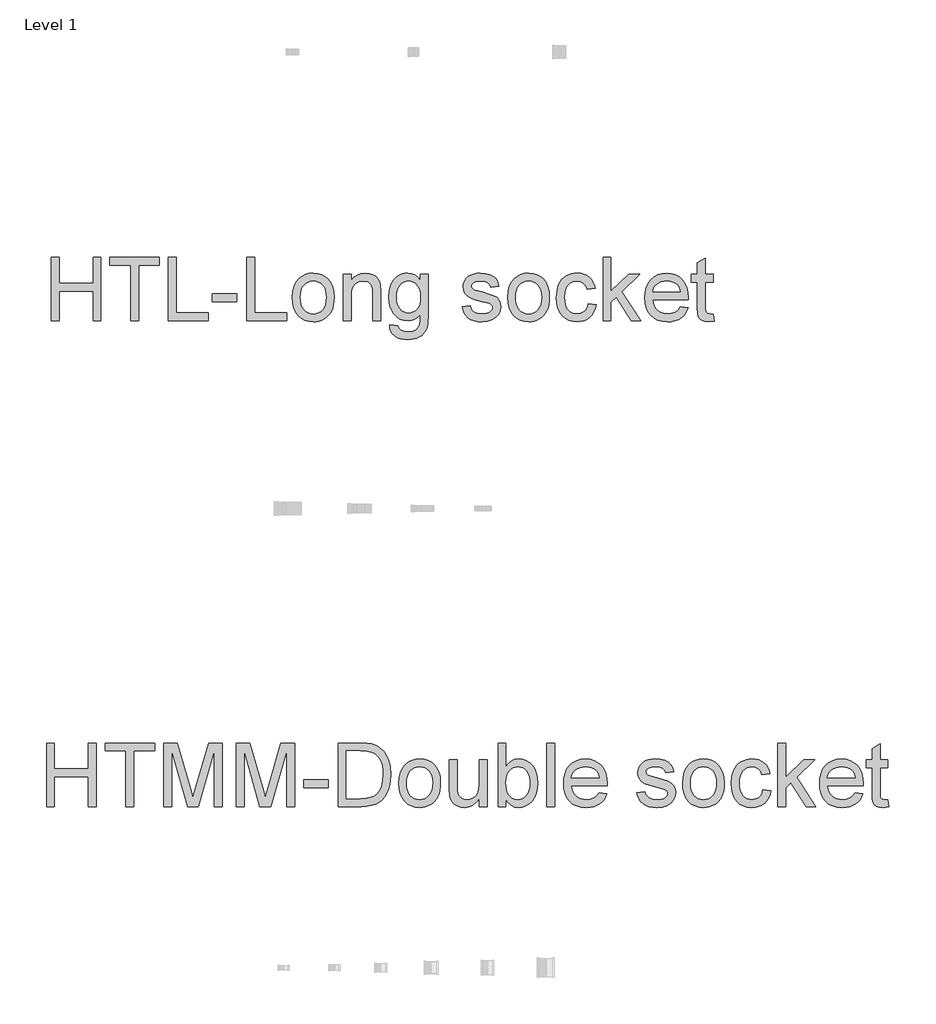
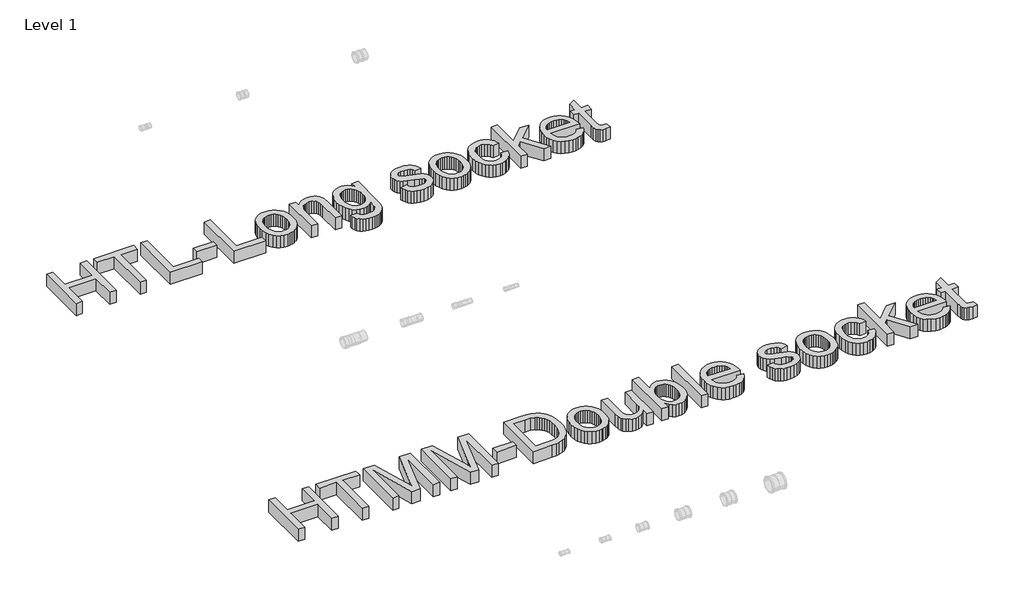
# One storey, part 21 of 29: 2 proxies.
"""IFC4 building model written with IfcOpenShell, lengths in millimetres."""

from ifc_helpers import new_model, si_unit, origin, origin_with_axes, place, context, project, spatial, polyline, outline, extrude, element, save

model = new_model("IFC4")

# Units and contexts
model_context = context("Model", 3, world=origin())
ifc_project = project(units=[si_unit("LENGTHUNIT", "METRE", prefix="MILLI")], contexts=[model_context])

# Site, building, storey
site = spatial("IfcSite", under=ifc_project)
building = spatial("IfcBuilding", under=site)
storey = spatial("IfcBuildingStorey", under=building, Name="Level 1", Elevation=0.0)

# Proxies
placement = place(None, origin())
element("IfcBuildingElementProxy", 1, Name="600mm Arial", ObjectType="600mm Arial", at=placement, inside=storey, context=model_context, shape_type="SweptSolid", body=[
    extrude(outline(polyline([(14453.4588096, 12253.86348), (14453.4588096, 12856.6013409), (14528.8010422, 12856.6013409), (14528.8010422, 12611.7390849), (14849.0055308, 12611.7390849), (14849.0055308, 12856.6013409), (14924.3477635, 12856.6013409), (14924.3477635, 12253.86348), (14849.0055308, 12253.86348), (14849.0055308, 12536.3968523), (14528.8010422, 12536.3968523), (14528.8010422, 12253.86348), (14453.4588096, 12253.86348)])), origin_with_axes(), (0.0, 0.0, 1.0), 150.0),
    extrude(outline(polyline([(15206.8811357, 12253.86348), (15206.8811357, 12781.2591083), (15009.1077751, 12781.2591083), (15009.1077751, 12856.6013409), (15479.996729, 12856.6013409), (15479.996729, 12781.2591083), (15282.2233684, 12781.2591083), (15282.2233684, 12253.86348), (15206.8811357, 12253.86348)])), origin_with_axes(), (0.0, 0.0, 1.0), 150.0),
    extrude(outline(polyline([(15564.7567407, 12253.86348), (15564.7567407, 12856.6013409), (15640.0989733, 12856.6013409), (15640.0989733, 12329.2057126), (15941.4679037, 12329.2057126), (15941.4679037, 12253.86348), (15564.7567407, 12253.86348)])), origin_with_axes(), (0.0, 0.0, 1.0), 150.0),
    extrude(outline(polyline([(15979.13902, 12432.8012824), (15979.13902, 12508.143515), (16214.5834969, 12508.143515), (16214.5834969, 12432.8012824), (15979.13902, 12432.8012824)])), origin_with_axes(), (0.0, 0.0, 1.0), 150.0),
    extrude(outline(polyline([(16308.7612877, 12253.86348), (16308.7612877, 12856.6013409), (16384.1035203, 12856.6013409), (16384.1035203, 12329.2057126), (16685.4724508, 12329.2057126), (16685.4724508, 12253.86348), (16308.7612877, 12253.86348)])), origin_with_axes(), (0.0, 0.0, 1.0), 150.0),
    extrude(outline(polyline([(16741.9791252, 12475.1812883), (16746.0534183, 12532.5065002), (16758.2762976, 12581.9038551), (16778.6477631, 12623.373353), (16807.1678148, 12656.9149939), (16835.8810045, 12678.3533172), (16867.5740384, 12693.6664052), (16902.2469164, 12702.854258), (16939.8996386, 12705.9168756), (16981.4657056, 12702.1874719), (17019.0494499, 12690.9992607), (17052.6508716, 12672.3522421), (17082.2699708, 12646.246416), (17106.4444164, 12613.5646993), (17123.7118775, 12575.1900087), (17134.0723542, 12531.1223442), (17137.5258464, 12481.3617058), (17135.9991362, 12441.0326421), (17131.4190053, 12405.246921), (17123.7854539, 12374.0045425), (17113.098482, 12347.3055067), (17099.4914467, 12324.2439042), (17083.0977053, 12303.9138254), (17063.9172577, 12286.3152705), (17041.9501041, 12271.4482393), (17018.05157, 12259.6346288), (16993.076981, 12251.1963355), (16967.0263372, 12246.1333595), (16939.8996386, 12244.4457009), (16897.7265664, 12248.161309), (16859.7933342, 12259.3081335), (16826.0999419, 12277.8861743), (16796.6463897, 12303.8954313), (16772.7294615, 12336.8944463), (16755.6459413, 12376.4417608), (16745.3958293, 12422.5373748), (16741.9791252, 12475.1812883)]), holes=[polyline([(16817.3213578, 12475.3284411), (16819.5010587, 12438.7839634), (16826.0401611, 12407.1415133), (16836.9386652, 12380.4010907), (16852.196571, 12358.5626958), (16870.7562176, 12341.5987373), (16891.5599445, 12329.4816241), (16914.6077515, 12322.2113561), (16939.8996386, 12319.7879335), (16965.0627671, 12322.2251517), (16988.0186036, 12329.5368064), (17008.7671481, 12341.7228975), (17027.3084007, 12358.783425), (17042.5663064, 12380.8379506), (17053.4648105, 12408.0060359), (17060.003913, 12440.287681), (17062.1836138, 12477.6828858), (17059.9901174, 12513.0685352), (17053.4096282, 12543.8832509), (17042.4421463, 12570.1270327), (17027.0876715, 12591.7998807), (17008.4774411, 12608.7638392), (16987.7426921, 12620.8809525), (16964.8834246, 12628.1512204), (16939.8996386, 12630.574643), (16914.6077515, 12628.1604174), (16891.5599445, 12620.9177407), (16870.7562176, 12608.8466127), (16852.196571, 12591.9470335), (16836.9386652, 12570.1730179), (16826.0401611, 12543.4785807), (16819.5010587, 12511.8637217), (16817.3213578, 12475.3284411)])]), origin_with_axes(), (0.0, 0.0, 1.0), 150.0),
    extrude(outline(polyline([(17222.2858581, 12253.86348), (17222.2858581, 12696.4990966), (17297.6280907, 12696.4990966), (17297.6280907, 12634.6949214), (17323.8028947, 12665.8545264), (17355.2384112, 12688.1113871), (17391.9346402, 12701.4655035), (17433.8915818, 12705.9168756), (17471.0292692, 12702.3300262), (17505.0399596, 12691.5694778), (17533.4036614, 12674.9779998), (17553.600383, 12653.8983615), (17567.3039873, 12628.3857452), (17576.1883375, 12598.495333), (17580.161463, 12525.654698), (17580.161463, 12253.86348), (17504.8192304, 12253.86348), (17504.8192304, 12515.5011549), (17502.6487267, 12554.4598582), (17496.1372153, 12582.1613725), (17484.1258682, 12602.0086061), (17465.4558569, 12617.4044676), (17441.5251332, 12627.2820992), (17413.7316484, 12630.574643), (17390.8539868, 12628.726036), (17369.6042031, 12623.1802149), (17349.9822972, 12613.9371798), (17331.9882691, 12600.9969306), (17316.9556911, 12582.8879394), (17306.2181353, 12558.1386782), (17299.7756019, 12526.7491469), (17297.6280907, 12488.7193457), (17297.6280907, 12253.86348), (17222.2858581, 12253.86348)])), origin_with_axes(), (0.0, 0.0, 1.0), 150.0),
    extrude(outline(polyline([(17664.9214747, 12216.1923637), (17740.2637073, 12206.7745846), (17748.5778404, 12183.2301369), (17764.6910718, 12167.0433291), (17796.3657116, 12154.4617649), (17837.8260125, 12150.2679101), (17882.0454283, 12155.0135879), (17899.9060991, 12160.945685), (17914.9340786, 12169.2506211), (17937.7427623, 12192.0593048), (17951.7222782, 12222.519934), (17955.8057683, 12254.9303378), (17956.8726261, 12310.3701544), (17931.8014681, 12285.6484843), (17903.8240424, 12267.9901486), (17872.9403489, 12257.3951471), (17839.1503876, 12253.86348), (17797.8418381, 12257.9745613), (17761.4721044, 12270.3078052), (17730.0411864, 12290.8632116), (17703.5490842, 12319.6407807), (17682.5292267, 12354.166506), (17667.5150428, 12391.966381), (17658.5065324, 12433.0404057), (17655.5036956, 12477.3885802), (17660.8931669, 12538.2178681), (17677.0615806, 12594.1543255), (17689.0453366, 12619.3772348), (17703.4387196, 12641.5559206), (17720.2417297, 12660.6903829), (17739.4543669, 12676.7806216), (17760.76853, 12689.5277328), (17783.8761179, 12698.6328121), (17808.7771304, 12704.0958598), (17835.4715677, 12705.9168756), (17870.7054658, 12701.7965973), (17902.6836082, 12689.4357623), (17931.405995, 12668.8343705), (17956.8726261, 12639.9924221), (17956.8726261, 12696.4990966), (18032.2148587, 12696.4990966), (18032.2148587, 12314.34328), (18027.0645108, 12226.1067834), (18020.6265759, 12193.2871109), (18011.613467, 12167.9998223), (17999.8090535, 12147.6053642), (17984.9972046, 12129.4641833), (17967.1779205, 12113.5762796), (17946.351201, 12099.9416532), (17922.7285784, 12088.9971638), (17896.5215848, 12081.1796714), (17867.7302201, 12076.489176), (17836.3544845, 12074.9256775), (17799.4421248, 12077.128371), (17766.2545703, 12083.7364513), (17736.791821, 12094.7499185), (17711.0538769, 12110.1687727), (17690.2639457, 12130.0114078), (17675.6452349, 12154.296218), (17667.1977446, 12183.0232033), (17664.9214747, 12216.1923637)]), holes=[polyline([(17730.8459283, 12482.5389282), (17732.8554837, 12445.2862776), (17738.8841499, 12413.4322954), (17748.9319268, 12386.9769814), (17762.9988146, 12365.9203357), (17780.1007289, 12349.8576881), (17799.2535853, 12338.3843684), (17820.4573838, 12331.5003765), (17843.7121244, 12329.2057126), (17866.7369388, 12331.4865809), (17887.8395697, 12338.3291861), (17907.0200172, 12349.7335279), (17924.2782813, 12365.6996065), (17938.5383072, 12386.5493186), (17948.7240399, 12412.6045609), (17954.8354795, 12443.8653334), (17956.8726261, 12480.3316362), (17954.7756987, 12515.2758272), (17948.4849166, 12545.6490844), (17938.0002797, 12571.4514079), (17923.3217881, 12592.6827975), (17905.6910435, 12609.2604799), (17886.3496476, 12621.1016817), (17865.2976004, 12628.2064027), (17842.534902, 12630.574643), (17820.1538811, 12628.2431909), (17799.5111027, 12621.2488344), (17780.6065666, 12609.5915737), (17763.440273, 12593.2714087), (17749.1802472, 12572.3619158), (17738.9945145, 12546.9366714), (17732.8830748, 12516.9956755), (17730.8459283, 12482.5389282)])]), origin_with_axes(), (0.0, 0.0, 1.0), 150.0),
    extrude(outline(polyline([(18352.4193473, 12385.712387), (18427.7615799, 12395.1301661), (18432.3141196, 12377.9500769), (18439.6441684, 12362.9037033), (18449.7517262, 12349.9910453), (18462.6367931, 12339.2121028), (18478.3361572, 12330.7140288), (18496.8866068, 12324.6439758), (18542.5407624, 12319.7879335), (18587.643095, 12324.2393056), (18605.1726721, 12329.8035208), (18619.354523, 12337.5934221), (18638.1165048, 12356.944015), (18642.8070002, 12367.7781398), (18644.3704987, 12379.3848167), (18642.7978032, 12389.5567539), (18638.0797166, 12398.5882569), (18619.2073702, 12413.2299603), (18590.9908212, 12422.7948922), (18541.6578456, 12434.7142688), (18472.9007007, 12454.5982906), (18428.2030383, 12471.5760447), (18399.4898486, 12490.0989032), (18378.6861218, 12514.6182381), (18366.0493752, 12543.5705512), (18361.8371264, 12575.3923438), (18365.2216407, 12604.5837801), (18375.3751838, 12631.5311362), (18391.3780506, 12655.1675544), (18412.3105361, 12674.4261769), (18433.114263, 12686.5478886), (18460.2087719, 12696.7198258), (18491.5339238, 12703.6176132), (18525.0295794, 12705.9168756), (18574.0682494, 12702.2196616), (18616.7057726, 12691.1280194), (18650.9923746, 12673.7272011), (18674.9782807, 12651.1024584), (18690.8707829, 12621.5799282), (18700.8771731, 12583.4857476), (18625.5349405, 12574.0679686), (18616.025191, 12597.7779632), (18597.2080269, 12615.638634), (18568.8995074, 12626.8406408), (18530.9156914, 12630.574643), (18487.6527687, 12627.0061877), (18458.8108203, 12616.3008216), (18442.5872243, 12600.8497778), (18437.179359, 12583.0442893), (18439.4234392, 12571.4560064), (18446.1556797, 12561.1185223), (18457.6703861, 12551.8846843), (18474.2618641, 12544.4902562), (18539.1562481, 12528.4506012), (18649.7415758, 12492.9867768), (18678.9514062, 12476.0274169), (18701.0979023, 12452.814063), (18715.0590241, 12423.2731387), (18719.7127313, 12387.3310678), (18714.2496837, 12350.1749863), (18697.8605408, 12315.2261968), (18671.170702, 12285.2254201), (18634.8055668, 12262.913377), (18590.8804566, 12249.0626199), (18541.5106928, 12244.4457009), (18500.9608999, 12246.671387), (18465.5430608, 12253.3484452), (18435.2571756, 12264.4768755), (18410.1032442, 12280.056678), (18389.5570347, 12300.0142763), (18373.0943154, 12324.2760938), (18360.7150863, 12352.8421308), (18352.4193473, 12385.712387)])), origin_with_axes(), (0.0, 0.0, 1.0), 150.0),
    extrude(outline(polyline([(18785.6371848, 12475.1812883), (18789.7114779, 12532.5065002), (18801.9343572, 12581.9038551), (18822.3058227, 12623.373353), (18850.8258744, 12656.9149939), (18879.5390641, 12678.3533172), (18911.232098, 12693.6664052), (18945.904976, 12702.854258), (18983.5576982, 12705.9168756), (19025.1237652, 12702.1874719), (19062.7075095, 12690.9992607), (19096.3089312, 12672.3522421), (19125.9280304, 12646.246416), (19150.102476, 12613.5646993), (19167.3699371, 12575.1900087), (19177.7304138, 12531.1223442), (19181.183906, 12481.3617058), (19179.6571958, 12441.0326421), (19175.0770649, 12405.246921), (19167.4435135, 12374.0045425), (19156.7565416, 12347.3055067), (19143.1495063, 12324.2439042), (19126.7557649, 12303.9138254), (19107.5753173, 12286.3152705), (19085.6081637, 12271.4482393), (19061.7096296, 12259.6346288), (19036.7350406, 12251.1963355), (19010.6843969, 12246.1333595), (18983.5576982, 12244.4457009), (18941.384626, 12248.161309), (18903.4513938, 12259.3081335), (18869.7580016, 12277.8861743), (18840.3044493, 12303.8954313), (18816.3875211, 12336.8944463), (18799.304001, 12376.4417608), (18789.0538889, 12422.5373748), (18785.6371848, 12475.1812883)]), holes=[polyline([(18860.9794174, 12475.3284411), (18863.1591183, 12438.7839634), (18869.6982207, 12407.1415133), (18880.5967248, 12380.4010907), (18895.8546306, 12358.5626958), (18914.4142772, 12341.5987373), (18935.2180041, 12329.4816241), (18958.2658111, 12322.2113561), (18983.5576982, 12319.7879335), (19008.7208267, 12322.2251517), (19031.6766632, 12329.5368064), (19052.4252077, 12341.7228975), (19070.9664603, 12358.783425), (19086.224366, 12380.8379506), (19097.1228701, 12408.0060359), (19103.6619726, 12440.287681), (19105.8416734, 12477.6828858), (19103.648177, 12513.0685352), (19097.0676878, 12543.8832509), (19086.1002059, 12570.1270327), (19070.7457311, 12591.7998807), (19052.1355007, 12608.7638392), (19031.4007517, 12620.8809525), (19008.5414842, 12628.1512204), (18983.5576982, 12630.574643), (18958.2658111, 12628.1604174), (18935.2180041, 12620.9177407), (18914.4142772, 12608.8466127), (18895.8546306, 12591.9470335), (18880.5967248, 12570.1730179), (18869.6982207, 12543.4785807), (18863.1591183, 12511.8637217), (18860.9794174, 12475.3284411)])]), origin_with_axes(), (0.0, 0.0, 1.0), 150.0),
    extrude(outline(polyline([(19548.47729, 12413.9657243), (19623.8195226, 12404.5479452), (19615.6249512, 12368.9967489), (19602.8134607, 12337.5382398), (19585.3850512, 12310.1724179), (19563.3397226, 12286.8992831), (19537.6063771, 12268.3258409), (19509.1139165, 12255.0590965), (19477.8623411, 12247.0990498), (19443.8516506, 12244.4457009), (19401.5958049, 12248.1475135), (19363.708558, 12259.2529512), (19330.1899097, 12277.7620141), (19301.0398601, 12303.6747021), (19277.4448286, 12336.5035717), (19260.5912347, 12375.7611791), (19250.4790784, 12421.4475243), (19247.1083596, 12473.5626075), (19252.8657128, 12540.6091011), (19260.0624043, 12570.7800232), (19270.1377725, 12598.7160622), (19283.1607951, 12623.8561981), (19299.2004501, 12645.6394107), (19318.2567374, 12664.0657002), (19340.3296572, 12679.1350664), (19364.4213293, 12690.8521079), (19389.533874, 12699.2214233), (19415.6672912, 12704.2430126), (19442.821581, 12705.9168756), (19476.2482588, 12703.6176132), (19506.4835603, 12696.7198258), (19533.5274854, 12685.2235134), (19557.3800343, 12669.1286761), (19577.6365367, 12648.8031959), (19593.8923223, 12624.6149547), (19606.1473913, 12596.5639526), (19614.4017436, 12564.6501895), (19539.059511, 12555.2324104), (19525.3926948, 12588.1026667), (19504.1107214, 12611.6655085), (19476.3908131, 12625.8473594), (19443.4101922, 12630.574643), (19417.8102039, 12628.2477894), (19394.7210101, 12621.2672285), (19374.142611, 12609.6329605), (19356.0750066, 12593.3449851), (19341.3643253, 12572.0262235), (19330.8566958, 12545.2995965), (19324.5521181, 12513.1651043), (19322.4505922, 12475.6227467), (19324.5061328, 12437.5147705), (19330.6727548, 12405.0077977), (19340.950458, 12378.1018283), (19355.3392426, 12356.7968622), (19373.0481621, 12340.6054559), (19393.2862704, 12329.0401657), (19416.0535673, 12322.1009915), (19441.350053, 12319.7879335), (19480.3639386, 12325.5636808), (19497.2359266, 12332.783365), (19512.3512781, 12342.8909228), (19525.2869288, 12355.9967189), (19535.6198143, 12372.2111178), (19543.3499347, 12391.5341196), (19548.47729, 12413.9657243)])), origin_with_axes(), (0.0, 0.0, 1.0), 150.0),
    extrude(outline(polyline([(19689.7439762, 12253.86348), (19689.7439762, 12856.6013409), (19765.0862088, 12856.6013409), (19765.0862088, 12532.7180323), (19934.017621, 12696.4990966), (20038.201802, 12696.4990966), (19867.2102506, 12530.6578931), (20047.6195811, 12253.86348), (19959.6222078, 12253.86348), (19813.2051738, 12478.271497), (19765.0862088, 12431.62406), (19765.0862088, 12253.86348), (19689.7439762, 12253.86348)])), origin_with_axes(), (0.0, 0.0, 1.0), 150.0),
    extrude(outline(polyline([(20423.4478274, 12385.712387), (20497.318532, 12376.294608), (20485.9923651, 12346.7076985), (20470.7022696, 12320.6340621), (20451.4482457, 12298.0736987), (20428.2302933, 12279.0266084), (20401.2875357, 12263.8974614), (20370.8590961, 12253.0909278), (20336.9449747, 12246.6070076), (20299.5451714, 12244.4457009), (20252.7965668, 12248.1751046), (20211.1431279, 12259.3633158), (20174.5848547, 12278.0103344), (20143.121747, 12304.1161605), (20117.8206628, 12336.9542271), (20099.7484598, 12375.7979673), (20088.905138, 12420.647381), (20085.2906974, 12471.5024683), (20088.9419262, 12524.0820025), (20099.8956126, 12570.4259368), (20118.1517566, 12610.5342713), (20143.7103582, 12644.407006), (20175.0906924, 12671.317574), (20210.8120341, 12690.5394082), (20250.8743834, 12702.0725088), (20295.2777402, 12705.9168756), (20338.2509558, 12702.0817058), (20377.1130901, 12690.5761964), (20411.864143, 12671.4003474), (20442.5041147, 12644.5541588), (20467.5154919, 12610.7550005), (20485.3807612, 12570.7202424), (20496.0999229, 12524.4498845), (20499.6729768, 12471.9439267), (20499.2315184, 12451.6368406), (20160.63293, 12451.6368406), (20164.9969302, 12421.5716845), (20173.6743467, 12395.2405307), (20186.6651797, 12372.6433792), (20203.969429, 12353.7802299), (20224.6306016, 12338.9086002), (20247.6922042, 12328.2860076), (20273.1542368, 12321.912452), (20301.0166994, 12319.7879335), (20341.1158368, 12323.7242709), (20374.887404, 12335.5332829), (20402.3314008, 12355.9507336), (20423.4478274, 12385.712387)]), holes=[polyline([(20160.63293, 12526.9790732), (20424.3307441, 12526.9790732), (20414.1404129, 12566.7839051), (20405.3756243, 12582.437284), (20394.1644205, 12595.2579715), (20373.6182111, 12610.7090153), (20350.2393103, 12621.7454751), (20324.0277182, 12628.3673511), (20294.9834346, 12630.574643), (20268.4913325, 12628.813408), (20244.1973252, 12623.5297028), (20222.1014129, 12614.7235276), (20202.2035955, 12602.3948822), (20185.5063514, 12587.1139838), (20173.0121591, 12569.4510495), (20164.7210187, 12549.4060793), (20160.63293, 12526.9790732)])]), origin_with_axes(), (0.0, 0.0, 1.0), 150.0),
    extrude(outline(polyline([(20735.1174537, 12316.6977247), (20744.5352327, 12251.656188), (20688.1757111, 12244.4457009), (20652.012911, 12247.5726978), (20625.0471607, 12256.9536887), (20605.9908734, 12271.4114511), (20593.5564619, 12289.7687627), (20586.7138568, 12321.2962497), (20584.4329884, 12375.2645384), (20584.4329884, 12621.156864), (20527.926314, 12621.156864), (20527.926314, 12696.4990966), (20584.4329884, 12696.4990966), (20584.4329884, 12804.067792), (20659.7752211, 12848.3607842), (20659.7752211, 12696.4990966), (20735.1174537, 12696.4990966), (20735.1174537, 12621.156864), (20659.7752211, 12621.156864), (20659.7752211, 12377.4718303), (20663.7483466, 12338.6234917), (20676.6242164, 12324.864705), (20687.4951294, 12321.0571264), (20702.3023797, 12319.7879335), (20735.1174537, 12316.6977247)])), origin_with_axes(), (0.0, 0.0, 1.0), 150.0),
])
element("IfcBuildingElementProxy", 2, Name="600mm Arial", ObjectType="600mm Arial", at=placement, inside=storey, context=model_context, shape_type="SweptSolid", body=[
    extrude(outline(polyline([(14408.013105, 7643.2833069), (14408.013105, 8246.0211678), (14483.3553376, 8246.0211678), (14483.3553376, 8001.1589118), (14803.5598262, 8001.1589118), (14803.5598262, 8246.0211678), (14878.9020588, 8246.0211678), (14878.9020588, 7643.2833069), (14803.5598262, 7643.2833069), (14803.5598262, 7925.8166792), (14483.3553376, 7925.8166792), (14483.3553376, 7643.2833069), (14408.013105, 7643.2833069)])), origin_with_axes(), (0.0, 0.0, 1.0), 150.0),
    extrude(outline(polyline([(15161.4354311, 7643.2833069), (15161.4354311, 8170.6789352), (14963.6620705, 8170.6789352), (14963.6620705, 8246.0211678), (15434.5510244, 8246.0211678), (15434.5510244, 8170.6789352), (15236.7776637, 8170.6789352), (15236.7776637, 7643.2833069), (15161.4354311, 7643.2833069)])), origin_with_axes(), (0.0, 0.0, 1.0), 150.0),
    extrude(outline(polyline([(15519.311036, 7643.2833069), (15519.311036, 8246.0211678), (15648.9526511, 8246.0211678), (15772.2666959, 7821.1910398), (15797.1355188, 7732.4579026), (15824.0644808, 7828.5486797), (15945.3183865, 8246.0211678), (16074.9600016, 8246.0211678), (16074.9600016, 7643.2833069), (15999.6177689, 7643.2833069), (15999.6177689, 8170.6789352), (15848.1975397, 7643.2833069), (15746.0734979, 7643.2833069), (15594.6532687, 8170.6789352), (15594.6532687, 7643.2833069), (15519.311036, 7643.2833069)])), origin_with_axes(), (0.0, 0.0, 1.0), 150.0),
    extrude(outline(polyline([(16206.8089086, 7643.2833069), (16206.8089086, 8246.0211678), (16336.4505237, 8246.0211678), (16459.7645685, 7821.1910398), (16484.6333914, 7732.4579026), (16511.5623534, 7828.5486797), (16632.816259, 8246.0211678), (16762.4578741, 8246.0211678), (16762.4578741, 7643.2833069), (16687.1156415, 7643.2833069), (16687.1156415, 8170.6789352), (16535.6954123, 7643.2833069), (16433.5713705, 7643.2833069), (16282.1511412, 8170.6789352), (16282.1511412, 7643.2833069), (16206.8089086, 7643.2833069)])), origin_with_axes(), (0.0, 0.0, 1.0), 150.0),
    extrude(outline(polyline([(16847.2178858, 7822.2211094), (16847.2178858, 7897.563342), (17082.6623627, 7897.563342), (17082.6623627, 7822.2211094), (16847.2178858, 7822.2211094)])), origin_with_axes(), (0.0, 0.0, 1.0), 150.0),
    extrude(outline(polyline([(17176.8401535, 7643.2833069), (17176.8401535, 8246.0211678), (17384.7670572, 8246.0211678), (17446.9023262, 8243.8506641), (17492.3357526, 8237.3391527), (17540.3811411, 8220.600522), (17580.921737, 8194.2233829), (17603.2613712, 8172.665498), (17622.6027671, 8148.3117099), (17638.9459247, 8121.1620187), (17652.2908441, 8091.2164243), (17662.6559193, 8058.7508382), (17670.0595444, 8024.0411719), (17675.9824446, 7947.8895989), (17671.9725308, 7883.1975501), (17659.9427896, 7826.2678113), (17641.6222662, 7777.7993585), (17618.7400061, 7738.4911673), (17592.3996553, 7707.460321), (17563.7048596, 7683.8239028), (17530.761027, 7666.2943257), (17491.673565, 7653.5840028), (17446.3688973, 7645.8584809), (17394.7734475, 7643.2833069), (17176.8401535, 7643.2833069)]), holes=[polyline([(17252.1823861, 7718.6255395), (17385.5028212, 7718.6255395), (17440.6483323, 7721.3478663), (17482.4765151, 7729.5148466), (17514.0407903, 7742.6482338), (17538.3945784, 7760.2697814), (17564.5693823, 7792.8825203), (17584.232675, 7835.0969792), (17596.5383277, 7887.0970992), (17600.640212, 7949.0668213), (17598.6306566, 7992.8079905), (17592.6019904, 8031.1780826), (17582.5542134, 8064.1770976), (17568.4873256, 8091.8050354), (17551.5417612, 8114.6872955), (17532.8579543, 8133.4492773), (17512.4359051, 8148.0909807), (17490.2756134, 8158.6124058), (17446.9391144, 8167.6623029), (17383.442682, 8170.6789352), (17252.1823861, 8170.6789352), (17252.1823861, 7718.6255395)])]), origin_with_axes(), (0.0, 0.0, 1.0), 150.0),
    extrude(outline(polyline([(17751.3246772, 7864.6011152), (17755.3989703, 7921.9263271), (17767.6218496, 7971.323682), (17787.993315, 8012.7931799), (17816.5133667, 8046.3348208), (17845.2265564, 8067.7731441), (17876.9195903, 8083.0862322), (17911.5924684, 8092.274085), (17949.2451906, 8095.3367026), (17990.8112575, 8091.6072989), (18028.3950018, 8080.4190877), (18061.9964236, 8061.7720691), (18091.6155227, 8035.666243), (18115.7899683, 8002.9845262), (18133.0574295, 7964.6098356), (18143.4179062, 7920.5421711), (18146.8713984, 7870.7815327), (18145.3446881, 7830.452469), (18140.7645573, 7794.6667479), (18133.1310059, 7763.4243695), (18122.4440339, 7736.7253337), (18108.8369986, 7713.6637311), (18092.4432572, 7693.3336524), (18073.2628097, 7675.7350974), (18051.295656, 7660.8680663), (18027.3971219, 7649.0544557), (18002.422533, 7640.6161625), (17976.3718892, 7635.5531865), (17949.2451906, 7633.8655278), (17907.0721184, 7637.581136), (17869.1388861, 7648.7279605), (17835.4454939, 7667.3060012), (17805.9919417, 7693.3152583), (17782.0750135, 7726.3142732), (17764.9914933, 7765.8615877), (17754.7413812, 7811.9572017), (17751.3246772, 7864.6011152)]), holes=[polyline([(17826.6669098, 7864.748268), (17828.8466106, 7828.2037903), (17835.3857131, 7796.5613402), (17846.2842172, 7769.8209177), (17861.5421229, 7747.9825228), (17880.1017696, 7731.0185643), (17900.9054964, 7718.901451), (17923.9533034, 7711.6311831), (17949.2451906, 7709.2077605), (17974.4083191, 7711.6449787), (17997.3641556, 7718.9566333), (18018.1127001, 7731.1427244), (18036.6539526, 7748.203252), (18051.9118584, 7770.2577776), (18062.8103625, 7797.4258629), (18069.349465, 7829.707508), (18071.5291658, 7867.1027128), (18069.3356694, 7902.4883622), (18062.7551802, 7933.3030778), (18051.7876982, 7959.5468597), (18036.4332234, 7981.2197077), (18017.822993, 7998.1836662), (17997.0882441, 8010.3007794), (17974.2289766, 8017.5710473), (17949.2451906, 8019.99447), (17923.9533034, 8017.5802444), (17900.9054964, 8010.3375676), (17880.1017696, 7998.2664396), (17861.5421229, 7981.3668605), (17846.2842172, 7959.5928449), (17835.3857131, 7932.8984076), (17828.8466106, 7901.2835487), (17826.6669098, 7864.748268)])]), origin_with_axes(), (0.0, 0.0, 1.0), 150.0),
    extrude(outline(polyline([(18514.1647824, 7643.2833069), (18514.1647824, 7719.3613035), (18486.9047265, 7681.9569017), (18455.1565104, 7655.2394718), (18418.9201338, 7639.2090138), (18378.195597, 7633.8655278), (18341.4993679, 7637.6179242), (18307.3415247, 7648.8751133), (18278.6835173, 7665.797685), (18258.4867957, 7686.5462296), (18244.893556, 7711.7461462), (18236.045994, 7742.0228344), (18231.6314101, 7812.0675663), (18231.6314101, 8085.9189235), (18306.9736427, 8085.9189235), (18306.9736427, 7847.5313906), (18308.1140769, 7799.8538841), (18311.5353794, 7770.7176301), (18322.516657, 7745.0946491), (18341.333821, 7725.6152974), (18366.7360728, 7713.3096447), (18397.4726135, 7709.2077605), (18429.9749878, 7713.4016152), (18460.3804347, 7725.9831794), (18485.4515927, 7745.7936249), (18501.9511001, 7771.6741232), (18511.1113618, 7807.1195535), (18514.1647824, 7855.6247945), (18514.1647824, 8085.9189235), (18589.507015, 8085.9189235), (18589.507015, 7643.2833069), (18514.1647824, 7643.2833069)])), origin_with_axes(), (0.0, 0.0, 1.0), 150.0),
    extrude(outline(polyline([(18768.4448174, 7643.2833069), (18693.1025848, 7643.2833069), (18693.1025848, 8246.0211678), (18768.4448174, 8246.0211678), (18768.4448174, 8022.4960676), (18793.2216698, 8054.3638454), (18821.1990956, 8077.1265438), (18852.3770946, 8090.7841629), (18886.7556671, 8095.3367026), (18925.5672176, 8091.2348184), (18962.2450525, 8078.9291656), (18994.6922445, 8059.1922966), (19020.8118661, 8032.7967634), (19041.2844992, 8000.0000835), (19056.7907253, 7961.0597744), (19066.5579922, 7917.5945166), (19069.8137479, 7871.2229911), (19066.4430291, 7817.7145549), (19056.3308728, 7770.6440537), (19039.4772789, 7730.0114873), (19015.8822474, 7695.8168558), (18987.5599323, 7668.7131498), (18956.5244875, 7649.3533598), (18922.7759129, 7637.7374858), (18886.3142087, 7633.8655278), (18850.8043991, 7638.8595259), (18819.3228974, 7653.8415202), (18791.8697035, 7678.8115106), (18768.4448174, 7713.7694972), (18768.4448174, 7643.2833069)]), holes=[polyline([(18768.4448174, 7867.691324), (18773.5951654, 7804.8570792), (18780.0331003, 7781.0551141), (18789.0462092, 7762.3299206), (18807.3023532, 7739.0889755), (18828.5199473, 7722.4883005), (18852.6989914, 7712.5278955), (18879.8394856, 7709.2077605), (18902.3722578, 7711.6541757), (18923.3231374, 7718.9934215), (18942.6921245, 7731.2254979), (18960.4792189, 7748.3504047), (18975.3508486, 7770.3221569), (18985.9734412, 7797.0947691), (18992.3469968, 7828.6682413), (18994.4715153, 7865.0425736), (18992.4343687, 7902.1066846), (18986.3229291, 7933.9836595), (18976.1371963, 7960.6734983), (18961.8771705, 7982.1762009), (18944.729271, 7998.7216936), (18925.8799173, 8010.5399027), (18905.3291093, 8017.6308282), (18883.0768471, 8019.99447), (18860.5440749, 8017.5480547), (18839.5931953, 8010.2088089), (18820.2242083, 7997.9767326), (18802.4371138, 7980.8518257), (18787.5654841, 7959.1008027), (18776.9428915, 7932.9903781), (18770.569336, 7902.5205519), (18768.4448174, 7867.691324)])]), origin_with_axes(), (0.0, 0.0, 1.0), 150.0),
    extrude(outline(polyline([(19154.5737596, 7643.2833069), (19154.5737596, 8246.0211678), (19229.9159922, 8246.0211678), (19229.9159922, 7643.2833069), (19154.5737596, 7643.2833069)])), origin_with_axes(), (0.0, 0.0, 1.0), 150.0),
    extrude(outline(polyline([(19652.8331339, 7775.132214), (19726.7038385, 7765.7144349), (19715.3776716, 7736.1275255), (19700.0875761, 7710.0538891), (19680.8335522, 7687.4935257), (19657.6155998, 7668.4464354), (19630.6728422, 7653.3172883), (19600.2444026, 7642.5107547), (19566.3302812, 7636.0268346), (19528.9304779, 7633.8655278), (19482.1818733, 7637.5949316), (19440.5284344, 7648.7831428), (19403.9701612, 7667.4301614), (19372.5070535, 7693.5359875), (19347.2059693, 7726.3740541), (19329.1337663, 7765.2177942), (19318.2904445, 7810.067208), (19314.6760039, 7860.9222953), (19318.3272327, 7913.5018294), (19329.2809191, 7959.8457638), (19347.5370631, 7999.9540983), (19373.0956647, 8033.826833), (19404.4759989, 8060.737401), (19440.1973406, 8079.9592352), (19480.2596899, 8091.4923357), (19524.6630467, 8095.3367026), (19567.6362623, 8091.5015328), (19606.4983966, 8079.9960234), (19641.2494495, 8060.8201744), (19671.8894212, 8033.9739858), (19696.9007983, 8000.1748275), (19714.7660677, 7960.1400694), (19725.4852294, 7913.8697114), (19729.0582833, 7861.3637537), (19728.6168249, 7841.0566675), (19390.0182365, 7841.0566675), (19394.3822367, 7810.9915115), (19403.0596532, 7784.6603577), (19416.0504862, 7762.0632061), (19433.3547355, 7743.2000568), (19454.0159081, 7728.3284272), (19477.0775107, 7717.7058346), (19502.5395432, 7711.332279), (19530.4020059, 7709.2077605), (19570.5011433, 7713.1440978), (19604.2727105, 7724.9531099), (19631.7167073, 7745.3705606), (19652.8331339, 7775.132214)]), holes=[polyline([(19390.0182365, 7916.3989001), (19653.7160506, 7916.3989001), (19643.5257194, 7956.203732), (19634.7609308, 7971.8571109), (19623.549727, 7984.6777985), (19603.0035176, 8000.1288422), (19579.6246168, 8011.1653021), (19553.4130247, 8017.787178), (19524.3687411, 8019.99447), (19497.876639, 8018.2332349), (19473.5826317, 8012.9495298), (19451.4867194, 8004.1433545), (19431.588902, 7991.8147092), (19414.8916579, 7976.5338108), (19402.3974656, 7958.8708765), (19394.1063252, 7938.8259063), (19390.0182365, 7916.3989001)])]), origin_with_axes(), (0.0, 0.0, 1.0), 150.0),
    extrude(outline(polyline([(20011.5916555, 7775.132214), (20086.9338882, 7784.5499931), (20091.4864278, 7767.3699039), (20098.8164766, 7752.3235303), (20108.9240344, 7739.4108723), (20121.8091013, 7728.6319298), (20137.5084654, 7720.1338557), (20156.0589151, 7714.0638028), (20201.7130707, 7709.2077605), (20246.8154033, 7713.6591326), (20264.3449803, 7719.2233478), (20278.5268312, 7727.013249), (20297.288813, 7746.363842), (20301.9793084, 7757.1979667), (20303.5428069, 7768.8046437), (20301.9701114, 7778.9765808), (20297.2520248, 7788.0080838), (20278.3796784, 7802.6497872), (20250.1631294, 7812.2147191), (20200.8301539, 7824.1340958), (20132.073009, 7844.0181176), (20087.3753466, 7860.9958717), (20058.6621568, 7879.5187301), (20037.85843, 7904.0380651), (20025.2216835, 7932.9903781), (20021.0094346, 7964.8121707), (20024.393949, 7994.003607), (20034.547492, 8020.9509632), (20050.5503588, 8044.5873814), (20071.4828444, 8063.8460038), (20092.2865712, 8075.9677156), (20119.3810801, 8086.1396527), (20150.706232, 8093.0374401), (20184.2018877, 8095.3367026), (20233.2405576, 8091.6394885), (20275.8780809, 8080.5478464), (20310.1646828, 8063.147028), (20334.1505889, 8040.5222853), (20350.0430911, 8010.9997552), (20360.0494814, 7972.9055746), (20284.7072488, 7963.4877955), (20275.1974992, 7987.1977901), (20256.3803351, 8005.058461), (20228.0718156, 8016.2604677), (20190.0879996, 8019.99447), (20146.825077, 8016.4260146), (20117.9831286, 8005.7206486), (20101.7595326, 7990.2696048), (20096.3516672, 7972.4641162), (20098.5957474, 7960.8758334), (20105.3279879, 7950.5383493), (20116.8426944, 7941.3045112), (20133.4341723, 7933.9100831), (20198.3285563, 7917.8704281), (20308.913884, 7882.4066038), (20338.1237145, 7865.4472438), (20360.2702106, 7842.2338899), (20374.2313323, 7812.6929657), (20378.8850395, 7776.7508948), (20373.4219919, 7739.5948133), (20357.032849, 7704.6460237), (20330.3430103, 7674.645247), (20293.977875, 7652.333204), (20250.0527648, 7638.4824469), (20200.6830011, 7633.8655278), (20160.1332081, 7636.0912139), (20124.7153691, 7642.7682721), (20094.4294838, 7653.8967025), (20069.2755524, 7669.476505), (20048.729343, 7689.4341032), (20032.2666237, 7713.6959208), (20019.8873945, 7742.2619577), (20011.5916555, 7775.132214)])), origin_with_axes(), (0.0, 0.0, 1.0), 150.0),
    extrude(outline(polyline([(20444.8094931, 7864.6011152), (20448.8837862, 7921.9263271), (20461.1066655, 7971.323682), (20481.4781309, 8012.7931799), (20509.9981826, 8046.3348208), (20538.7113723, 8067.7731441), (20570.4044062, 8083.0862322), (20605.0772843, 8092.274085), (20642.7300065, 8095.3367026), (20684.2960734, 8091.6072989), (20721.8798177, 8080.4190877), (20755.4812395, 8061.7720691), (20785.1003386, 8035.666243), (20809.2747842, 8002.9845262), (20826.5422454, 7964.6098356), (20836.9027221, 7920.5421711), (20840.3562143, 7870.7815327), (20838.829504, 7830.452469), (20834.2493732, 7794.6667479), (20826.6158218, 7763.4243695), (20815.9288498, 7736.7253337), (20802.3218145, 7713.6637311), (20785.9280731, 7693.3336524), (20766.7476256, 7675.7350974), (20744.7804719, 7660.8680663), (20720.8819378, 7649.0544557), (20695.9073489, 7640.6161625), (20669.8567051, 7635.5531865), (20642.7300065, 7633.8655278), (20600.5569342, 7637.581136), (20562.623702, 7648.7279605), (20528.9303098, 7667.3060012), (20499.4767576, 7693.3152583), (20475.5598293, 7726.3142732), (20458.4763092, 7765.8615877), (20448.2261971, 7811.9572017), (20444.8094931, 7864.6011152)]), holes=[polyline([(20520.1517257, 7864.748268), (20522.3314265, 7828.2037903), (20528.870529, 7796.5613402), (20539.7690331, 7769.8209177), (20555.0269388, 7747.9825228), (20573.5865855, 7731.0185643), (20594.3903123, 7718.901451), (20617.4381193, 7711.6311831), (20642.7300065, 7709.2077605), (20667.8931349, 7711.6449787), (20690.8489714, 7718.9566333), (20711.597516, 7731.1427244), (20730.1387685, 7748.203252), (20745.3966743, 7770.2577776), (20756.2951784, 7797.4258629), (20762.8342808, 7829.707508), (20765.0139817, 7867.1027128), (20762.8204853, 7902.4883622), (20756.2399961, 7933.3030778), (20745.2725141, 7959.5468597), (20729.9180393, 7981.2197077), (20711.3078089, 7998.1836662), (20690.5730599, 8010.3007794), (20667.7137925, 8017.5710473), (20642.7300065, 8019.99447), (20617.4381193, 8017.5802444), (20594.3903123, 8010.3375676), (20573.5865855, 7998.2664396), (20555.0269388, 7981.3668605), (20539.7690331, 7959.5928449), (20528.870529, 7932.8984076), (20522.3314265, 7901.2835487), (20520.1517257, 7864.748268)])]), origin_with_axes(), (0.0, 0.0, 1.0), 150.0),
    extrude(outline(polyline([(21207.6495983, 7803.3855512), (21282.9918309, 7793.9677722), (21274.7972594, 7758.4165758), (21261.985769, 7726.9580667), (21244.5573594, 7699.5922448), (21222.5120309, 7676.3191101), (21196.7786853, 7657.7456679), (21168.2862248, 7644.4789234), (21137.0346493, 7636.5188767), (21103.0239588, 7633.8655278), (21060.7681132, 7637.5673404), (21022.8808662, 7648.6727782), (20989.3622179, 7667.181841), (20960.2121683, 7693.0945291), (20936.6171368, 7725.9233986), (20919.7635429, 7765.181006), (20909.6513866, 7810.8673513), (20906.2806678, 7862.9824344), (20912.038021, 7930.0289281), (20919.2347126, 7960.1998502), (20929.3100807, 7988.1358892), (20942.3331033, 8013.2760251), (20958.3727583, 8035.0592377), (20977.4290457, 8053.4855271), (20999.5019654, 8068.5548934), (21023.5936376, 8080.2719349), (21048.7061822, 8088.6412503), (21074.8395995, 8093.6628395), (21101.9938893, 8095.3367026), (21135.420567, 8093.0374401), (21165.6558685, 8086.1396527), (21192.6997937, 8074.6433404), (21216.5523425, 8058.5485031), (21236.8088449, 8038.2230228), (21253.0646306, 8014.0347817), (21265.3196995, 7985.9837795), (21273.5740518, 7954.0700165), (21198.2318192, 7944.6522374), (21184.5650031, 7977.5224936), (21163.2830296, 8001.0853354), (21135.5631213, 8015.2671863), (21102.5825004, 8019.99447), (21076.9825121, 8017.6676164), (21053.8933184, 8010.6870555), (21033.3149193, 7999.0527874), (21015.2473148, 7982.7648121), (21000.5366335, 7961.4460505), (20990.029004, 7934.7194235), (20983.7244263, 7902.5849312), (20981.6229004, 7865.0425736), (20983.6784411, 7826.9345974), (20989.845063, 7794.4276246), (21000.1227663, 7767.5216552), (21014.5115508, 7746.2166892), (21032.2204703, 7730.0252829), (21052.4585786, 7718.4599926), (21075.2258756, 7711.5208185), (21100.5223613, 7709.2077605), (21139.5362469, 7714.9835078), (21156.4082349, 7722.2031919), (21171.5235863, 7732.3107498), (21184.459237, 7745.4165458), (21194.7921225, 7761.6309448), (21202.522243, 7780.9539466), (21207.6495983, 7803.3855512)])), origin_with_axes(), (0.0, 0.0, 1.0), 150.0),
    extrude(outline(polyline([(21348.9162844, 7643.2833069), (21348.9162844, 8246.0211678), (21424.258517, 8246.0211678), (21424.258517, 7922.1378593), (21593.1899292, 8085.9189235), (21697.3741102, 8085.9189235), (21526.3825589, 7920.0777201), (21706.7918893, 7643.2833069), (21618.7945161, 7643.2833069), (21472.377482, 7867.691324), (21424.258517, 7821.043887), (21424.258517, 7643.2833069), (21348.9162844, 7643.2833069)])), origin_with_axes(), (0.0, 0.0, 1.0), 150.0),
    extrude(outline(polyline([(22082.6201356, 7775.132214), (22156.4908402, 7765.7144349), (22145.1646733, 7736.1275255), (22129.8745779, 7710.0538891), (22110.620554, 7687.4935257), (22087.4026015, 7668.4464354), (22060.4598439, 7653.3172883), (22030.0314044, 7642.5107547), (21996.117283, 7636.0268346), (21958.7174796, 7633.8655278), (21911.9688751, 7637.5949316), (21870.3154362, 7648.7831428), (21833.7571629, 7667.4301614), (21802.2940553, 7693.5359875), (21776.9929711, 7726.3740541), (21758.920768, 7765.2177942), (21748.0774462, 7810.067208), (21744.4630056, 7860.9222953), (21748.1142344, 7913.5018294), (21759.0679208, 7959.8457638), (21777.3240648, 7999.9540983), (21802.8826665, 8033.826833), (21834.2630006, 8060.737401), (21869.9843424, 8079.9592352), (21910.0466917, 8091.4923357), (21954.4500485, 8095.3367026), (21997.423264, 8091.5015328), (22036.2853983, 8079.9960234), (22071.0364513, 8060.8201744), (22101.6764229, 8033.9739858), (22126.6878001, 8000.1748275), (22144.5530695, 7960.1400694), (22155.2722311, 7913.8697114), (22158.845285, 7861.3637537), (22158.4038266, 7841.0566675), (21819.8052382, 7841.0566675), (21824.1692384, 7810.9915115), (21832.846655, 7784.6603577), (21845.8374879, 7762.0632061), (21863.1417373, 7743.2000568), (21883.8029098, 7728.3284272), (21906.8645124, 7717.7058346), (21932.326545, 7711.332279), (21960.1890076, 7709.2077605), (22000.2881451, 7713.1440978), (22034.0597122, 7724.9531099), (22061.5037091, 7745.3705606), (22082.6201356, 7775.132214)]), holes=[polyline([(21819.8052382, 7916.3989001), (22083.5030524, 7916.3989001), (22073.3127211, 7956.203732), (22064.5479326, 7971.8571109), (22053.3367288, 7984.6777985), (22032.7905193, 8000.1288422), (22009.4116186, 8011.1653021), (21983.2000264, 8017.787178), (21954.1557429, 8019.99447), (21927.6636407, 8018.2332349), (21903.3696334, 8012.9495298), (21881.2737211, 8004.1433545), (21861.3759037, 7991.8147092), (21844.6786596, 7976.5338108), (21832.1844674, 7958.8708765), (21823.8933269, 7938.8259063), (21819.8052382, 7916.3989001)])]), origin_with_axes(), (0.0, 0.0, 1.0), 150.0),
    extrude(outline(polyline([(22394.2897619, 7706.1175517), (22403.707541, 7641.076015), (22347.3480193, 7633.8655278), (22311.1852192, 7636.9925248), (22284.219469, 7646.3735157), (22265.1631816, 7660.8312781), (22252.7287702, 7679.1885897), (22245.8861651, 7710.7160766), (22243.6052967, 7764.6843653), (22243.6052967, 8010.5766909), (22187.0986222, 8010.5766909), (22187.0986222, 8085.9189235), (22243.6052967, 8085.9189235), (22243.6052967, 8193.4876189), (22318.9475293, 8237.7806111), (22318.9475293, 8085.9189235), (22394.2897619, 8085.9189235), (22394.2897619, 8010.5766909), (22318.9475293, 8010.5766909), (22318.9475293, 7766.8916573), (22322.9206548, 7728.0433186), (22335.7965247, 7714.284532), (22346.6674376, 7710.4769533), (22361.4746879, 7709.2077605), (22394.2897619, 7706.1175517)])), origin_with_axes(), (0.0, 0.0, 1.0), 150.0),
])

save(model, "model.ifc")
